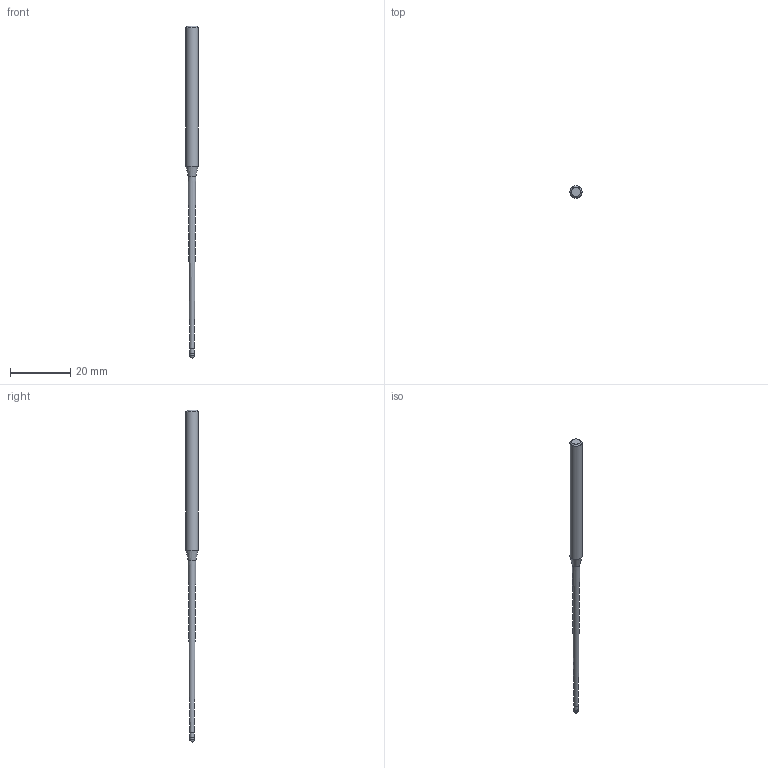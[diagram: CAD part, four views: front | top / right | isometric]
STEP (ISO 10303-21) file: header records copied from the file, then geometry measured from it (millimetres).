
FILE_DESCRIPTION((''),'2;1');
FILE_NAME('C:\Users\nsx150\AppData\Local\Temp\Mastercam 2021\SNAKH10GOD\TEMP.step','2021-10-21T13:32:51',(''),(''),'STEP Write','Mastercam 2021 ... CNC Software, Inc.','');
FILE_SCHEMA(('AUTOMOTIVE_DESIGN'));
Length unit declared in the file: millimetre
Products named in the file (1): None
Bounding box: 4 x 4 x 110 mm (x, y, z)
Volume: 797.6 mm3; surface area: 1002.7 mm2
Topology: 2 solids, 2 shells, 10 faces, 16 edges, 9 vertices
Faces by surface type: plane 3, cylinder 3, cone 3, sphere 1
Full cylindrical faces by diameter (mm): 1.485 x1, 1.5 x1, 4 x1
Entity records: 232 total; most frequent: DIRECTION 40, CARTESIAN_POINT 28, AXIS2_PLACEMENT_3D 20, ORIENTED_EDGE 16, EDGE_LOOP 16, STYLED_ITEM 13, ADVANCED_FACE 10, FACE_BOUND 9
